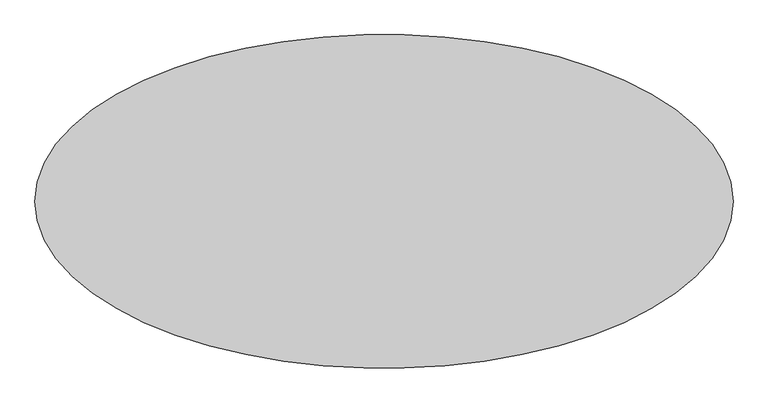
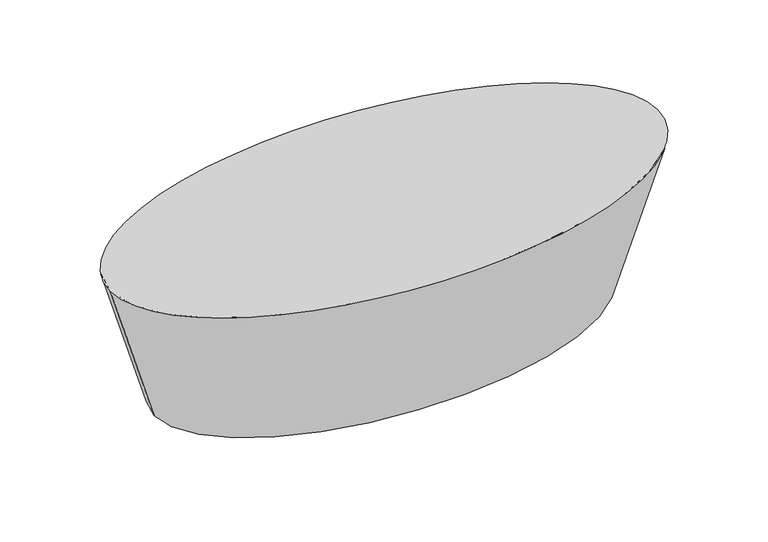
"""IFC4 building model written with IfcOpenShell, lengths in millimetres: furniture geometry, 家具 2 : 家具 2."""

from ifc_helpers import new_model, si_unit, frame, origin, place, context, project, spatial, ellipse_curve, source, transform, mapped, element, save
from ifc_brep_helpers import plane_surface, spline_surface, advanced_brep


def furniture_6569f3a2(model_context):
    return source(origin(), model_context, "Body", "AdvancedBrep", [
        advanced_brep(
        [(-522.6711453, -2183.0095556, 520.0), (-2362.6711453, -2183.0095556, 520.0), (-691.8711453, -2176.7095556, 20.0), (-2211.8711453, -2176.7095556, 20.0)],
        [
            (0, 1, ellipse_curve(frame((-1442.6711453, -2183.0095556, 520.0), z_axis=(0.0, 0.0, 1.0), x_axis=(-1.0, 0.0, 0.0)), 920.0, 440.0)),
            (1, 0, ellipse_curve(frame((-1442.6711453, -2183.0095556, 520.0), z_axis=(0.0, 0.0, 1.0), x_axis=(-1.0, 0.0, 0.0)), 920.0, 440.0)),
            (2, 3, ellipse_curve(frame((-1451.8711453, -2176.7095556, 20.0), z_axis=(0.0, 0.0, -1.0), x_axis=(-1.0, 0.0, 0.0)), 760.0, 360.0)),
            (3, 2, ellipse_curve(frame((-1451.8711453, -2176.7095556, 20.0), z_axis=(0.0, 0.0, -1.0), x_axis=(-1.0, 0.0, 0.0)), 760.0, 360.0)),
            (3, 1),
            (0, 2),
        ],
        [
            plane_surface(frame((-1442.6711453, -2183.0095556, 520.0), z_axis=(0.0, 0.0, 1.0), x_axis=(0.0, 1.0, 0.0))),
            plane_surface(frame((-1451.8711453, -2176.7095556, 20.0), z_axis=(0.0, 0.0, -1.0), x_axis=(0.0, 1.0, 0.0))),
            spline_surface(2, 1, [[(-691.8711453, -2176.7095556, 20.0), (-522.6711453, -2183.0095556, 520.0)], [(-691.8711453, -1816.7095556, 20.0), (-522.6711453, -1743.0095556, 520.0)], [(-1451.8711453, -1816.7095556, 20.0), (-1442.6711453, -1743.0095556, 520.0)], [(-2211.8711453, -1816.7095555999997, 20.0), (-2362.6711453, -1743.0095556, 520.0)], [(-2211.8711453, -2176.7095556, 20.0), (-2362.6711453, -2183.0095556, 520.0)]], [3, 2, 3], [2, 2], [0.0, 1.0, 2.0], [0.0, 1.0], weights=[[1.0, 1.0], [0.7071067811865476, 0.7071067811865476], [1.0, 1.0], [0.7071067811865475, 0.7071067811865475], [1.0, 1.0]]),
            spline_surface(2, 1, [[(-2211.8711453, -2176.7095556, 20.0), (-2362.6711453, -2183.0095556, 520.0)], [(-2211.8711453, -2536.7095556, 20.0), (-2362.6711453, -2623.0095556, 520.0)], [(-1451.8711453, -2536.7095556, 20.0), (-1442.6711453, -2623.0095556, 520.0)], [(-691.8711453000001, -2536.7095556, 20.0), (-522.6711453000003, -2623.0095556, 520.0)], [(-691.8711453, -2176.7095556, 20.0), (-522.6711453, -2183.0095556, 520.0)]], [3, 2, 3], [2, 2], [0.0, 1.0, 2.0], [0.0, 1.0], weights=[[1.0, 1.0], [0.7071067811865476, 0.7071067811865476], [1.0, 1.0], [0.7071067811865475, 0.7071067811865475], [1.0, 1.0]]),
        ],
        [
            (0, [[1, 2]]),
            (1, [[3, 4]]),
            (2, [[-4, 5, -1, 6]]),
            (3, [[-3, -6, -2, -5]]),
        ],
    ),
    ])


if __name__ == "__main__":
    model = new_model("IFC4")
    model_context = context("Model", 3, world=origin())
    ifc_project = project(units=[si_unit("LENGTHUNIT", "METRE", prefix="MILLI")], contexts=[model_context])
    site = spatial("IfcSite", under=ifc_project)
    building = spatial("IfcBuilding", under=site)
    placement = place(None, origin())
    furniture_shape = furniture_6569f3a2(model_context)
    element("IfcFurniture", 1, ObjectType="家具 2 : 家具 2", at=placement, inside=building, context=model_context, shape_type="MappedRepresentation", body=[
        mapped(furniture_shape, transform((0.0, 0.0, 0.0), x_axis=(1.0, 0.0, 0.0), y_axis=(0.0, 1.0, 0.0), z_axis=(0.0, 0.0, 1.0))),
    ])
    save(model, "model.ifc")
